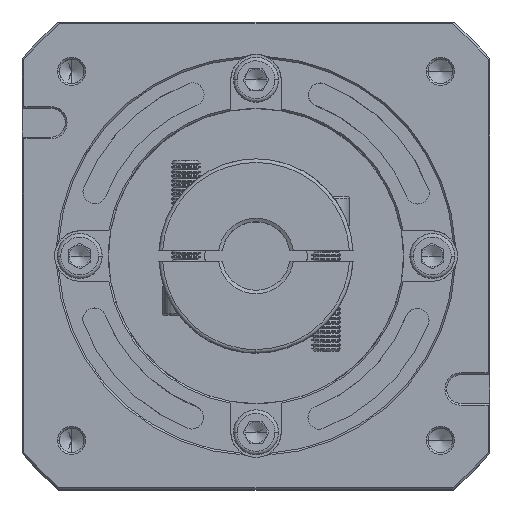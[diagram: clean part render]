
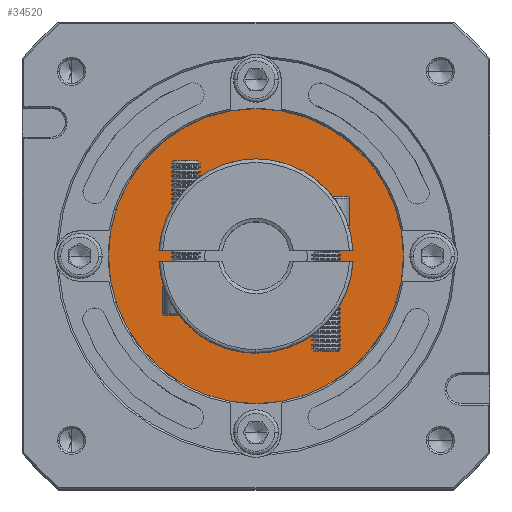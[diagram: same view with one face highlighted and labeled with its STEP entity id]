
A CAD part, top view. The second image highlights one B-rep face of the part: STEP entity #34520.
In plain terms, the highlighted planar face has unit normal (0, 0, 1).
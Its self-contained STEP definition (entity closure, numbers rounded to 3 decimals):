
#1995 = DIRECTION ( 'NONE',  ( 1., 0., 0. ) ) ;
#11311 = DIRECTION ( 'NONE',  ( 0., 0., 1. ) ) ;
#11746 = EDGE_CURVE ( 'NONE', #110899, #17664, #26883, .T. ) ;
#16835 = CARTESIAN_POINT ( 'NONE',  ( 39.895, 131.061, -30.478 ) ) ;
#17664 = VERTEX_POINT ( 'NONE', #102300 ) ;
#18109 = DIRECTION ( 'NONE',  ( 1., 0., 0. ) ) ;
#22332 = DIRECTION ( 'NONE',  ( 1., 0., 0. ) ) ;
#23249 = CARTESIAN_POINT ( 'NONE',  ( 39.895, 131.061, -30.478 ) ) ;
#23267 = CIRCLE ( 'NONE', #100210, 20. ) ;
#26430 = CARTESIAN_POINT ( 'NONE',  ( -1.105, 131.061, -30.478 ) ) ;
#26556 = DIRECTION ( 'NONE',  ( 0., 0., 1. ) ) ;
#26883 = CIRCLE ( 'NONE', #74372, 20. ) ;
#28536 = EDGE_LOOP ( 'NONE', ( #47117, #102915 ) ) ;
#31546 = ORIENTED_EDGE ( 'NONE', *, *, #34256, .T. ) ;
#33910 = DIRECTION ( 'NONE',  ( 0., 0., 1. ) ) ;
#34256 = EDGE_CURVE ( 'NONE', #116440, #53323, #49333, .T. ) ;
#34520 = ADVANCED_FACE ( 'NONE', ( #46913, #129281 ), #108872, .T. ) ;
#39232 = CARTESIAN_POINT ( 'NONE',  ( 39.895, 131.061, -30.478 ) ) ;
#40575 = AXIS2_PLACEMENT_3D ( 'NONE', #39232, #11311, #1995 ) ;
#40683 = DIRECTION ( 'NONE',  ( 1., 0., 0. ) ) ;
#45345 = ORIENTED_EDGE ( 'NONE', *, *, #53524, .T. ) ;
#46913 = FACE_OUTER_BOUND ( 'NONE', #122131, .T. ) ;
#47117 = ORIENTED_EDGE ( 'NONE', *, *, #127502, .T. ) ;
#49333 = CIRCLE ( 'NONE', #91115, 41. ) ;
#52948 = DIRECTION ( 'NONE',  ( 0., 0., -1. ) ) ;
#53323 = VERTEX_POINT ( 'NONE', #26430 ) ;
#53524 = EDGE_CURVE ( 'NONE', #53323, #116440, #127356, .T. ) ;
#74372 = AXIS2_PLACEMENT_3D ( 'NONE', #120341, #101331, #40683 ) ;
#74568 = CARTESIAN_POINT ( 'NONE',  ( 19.895, 131.061, -30.478 ) ) ;
#83595 = DIRECTION ( 'NONE',  ( 1., 0., 0. ) ) ;
#87865 = CARTESIAN_POINT ( 'NONE',  ( 80.895, 131.061, -30.478 ) ) ;
#91115 = AXIS2_PLACEMENT_3D ( 'NONE', #23249, #33910, #83595 ) ;
#100210 = AXIS2_PLACEMENT_3D ( 'NONE', #123686, #52948, #22332 ) ;
#101331 = DIRECTION ( 'NONE',  ( 0., 0., -1. ) ) ;
#102300 = CARTESIAN_POINT ( 'NONE',  ( 59.895, 131.061, -30.478 ) ) ;
#102915 = ORIENTED_EDGE ( 'NONE', *, *, #11746, .T. ) ;
#108872 = PLANE ( 'NONE',  #122392 ) ;
#110899 = VERTEX_POINT ( 'NONE', #74568 ) ;
#116440 = VERTEX_POINT ( 'NONE', #87865 ) ;
#120341 = CARTESIAN_POINT ( 'NONE',  ( 39.895, 131.061, -30.478 ) ) ;
#122131 = EDGE_LOOP ( 'NONE', ( #31546, #45345 ) ) ;
#122392 = AXIS2_PLACEMENT_3D ( 'NONE', #16835, #26556, #18109 ) ;
#123686 = CARTESIAN_POINT ( 'NONE',  ( 39.895, 131.061, -30.478 ) ) ;
#127356 = CIRCLE ( 'NONE', #40575, 41. ) ;
#127502 = EDGE_CURVE ( 'NONE', #17664, #110899, #23267, .T. ) ;
#129281 = FACE_BOUND ( 'NONE', #28536, .T. ) ;
